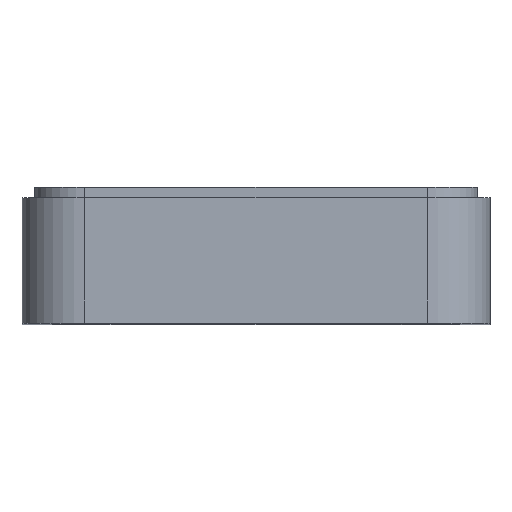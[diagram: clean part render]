
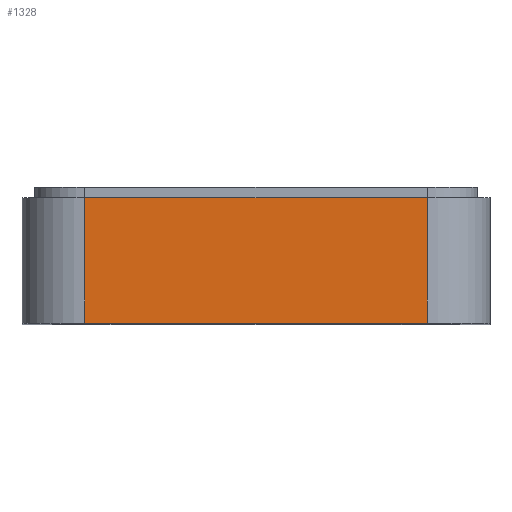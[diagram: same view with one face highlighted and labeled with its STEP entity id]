
A CAD part, top view. The second image highlights one B-rep face of the part: STEP entity #1328.
In plain terms, the highlighted planar face has unit normal (0, 0, 1).
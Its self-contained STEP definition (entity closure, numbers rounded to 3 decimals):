
#93=PLANE('',#1430);
#138=FACE_OUTER_BOUND('',#208,.T.);
#208=EDGE_LOOP('',(#989,#990,#991,#992));
#282=LINE('',#1874,#388);
#321=LINE('',#2553,#427);
#322=LINE('',#2555,#428);
#323=LINE('',#2556,#429);
#388=VECTOR('',#1536,10.);
#427=VECTOR('',#1645,10.);
#428=VECTOR('',#1646,10.);
#429=VECTOR('',#1647,10.);
#557=VERTEX_POINT('',#1871);
#558=VERTEX_POINT('',#1873);
#611=VERTEX_POINT('',#2552);
#612=VERTEX_POINT('',#2554);
#693=EDGE_CURVE('',#557,#558,#282,.T.);
#767=EDGE_CURVE('',#557,#611,#321,.T.);
#768=EDGE_CURVE('',#612,#611,#322,.T.);
#769=EDGE_CURVE('',#558,#612,#323,.F.);
#989=ORIENTED_EDGE('',*,*,#767,.T.);
#990=ORIENTED_EDGE('',*,*,#768,.F.);
#991=ORIENTED_EDGE('',*,*,#769,.F.);
#992=ORIENTED_EDGE('',*,*,#693,.F.);
#1328=ADVANCED_FACE('',(#138),#93,.T.);
#1430=AXIS2_PLACEMENT_3D('',#2551,#1643,#1644);
#1536=DIRECTION('',(0.,-1.,0.));
#1643=DIRECTION('center_axis',(0.,0.,1.));
#1644=DIRECTION('ref_axis',(-1.,0.,0.));
#1645=DIRECTION('',(-1.,0.,0.));
#1646=DIRECTION('',(0.,1.,0.));
#1647=DIRECTION('',(1.,0.,0.));
#1871=CARTESIAN_POINT('',(-46.753,4.414,68.185));
#1873=CARTESIAN_POINT('',(-46.753,-7.586,68.185));
#1874=CARTESIAN_POINT('',(-46.753,-5.586,68.185));
#2551=CARTESIAN_POINT('Origin',(-1.153,-5.586,68.185));
#2552=CARTESIAN_POINT('',(-79.553,4.414,68.185));
#2553=CARTESIAN_POINT('',(-74.003,4.414,68.185));
#2554=CARTESIAN_POINT('',(-79.553,-7.586,68.185));
#2555=CARTESIAN_POINT('',(-79.553,-5.586,68.185));
#2556=CARTESIAN_POINT('',(-22.153,-7.586,68.185));
